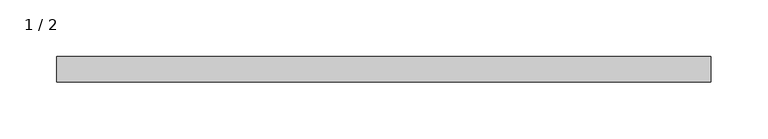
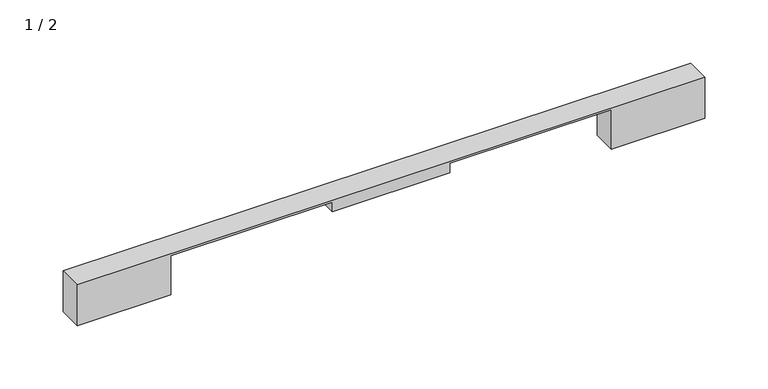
"""IFC4 building model written with IfcOpenShell, lengths in millimetres: proxy geometry, Junction_Box_Adapter-Walkercell-Wiremold-Reducer : 1 / 2."""

from ifc_helpers import new_model, si_unit, frame, origin, place, context, project, spatial, polyline, outline, extrude, source, transform, mapped, element, save


def proxy_1_2_c1ee5f30(model_context):
    return source(origin(), model_context, "Body", "SweptSolid", [
        extrude(outline(polyline([(1.5748, 287.3375), (1.5748, -287.3375), (-38.1, -287.3375), (-38.1, -201.6125), (0.0, -201.6125), (0.0, -53.975), (-9.525, -53.975), (-9.525, 53.975), (0.0, 53.975), (0.0, 201.6125), (-38.1, 201.6125), (-38.1, 287.3375), (1.5748, 287.3375)])), frame((0.0, -22.225, 0.0), z_axis=(0.0, 1.0, 0.0), x_axis=(0.0, 0.0, 1.0)), (0.0, 0.0, 1.0), 22.225),
    ])


if __name__ == "__main__":
    model = new_model("IFC4")
    model_context = context("Model", 3, world=origin())
    ifc_project = project(units=[si_unit("LENGTHUNIT", "METRE", prefix="MILLI")], contexts=[model_context])
    site = spatial("IfcSite", under=ifc_project)
    building = spatial("IfcBuilding", under=site)
    placement = place(None, origin())
    proxy_1_2_shape = proxy_1_2_c1ee5f30(model_context)
    element("IfcBuildingElementProxy", 1, Name="Junction_Box_Adapter-Walkercell-Wiremold-Reducer : 1 / 2", ObjectType="Junction_Box_Adapter-Walkercell-Wiremold-Reducer : 1 / 2", at=placement, inside=building, context=model_context, shape_type="MappedRepresentation", body=[
        mapped(proxy_1_2_shape, transform((0.0, 0.0, 0.0), x_axis=(1.0, 0.0, 0.0), y_axis=(0.0, 1.0, 0.0), z_axis=(0.0, 0.0, 1.0))),
    ])
    save(model, "model.ifc")
